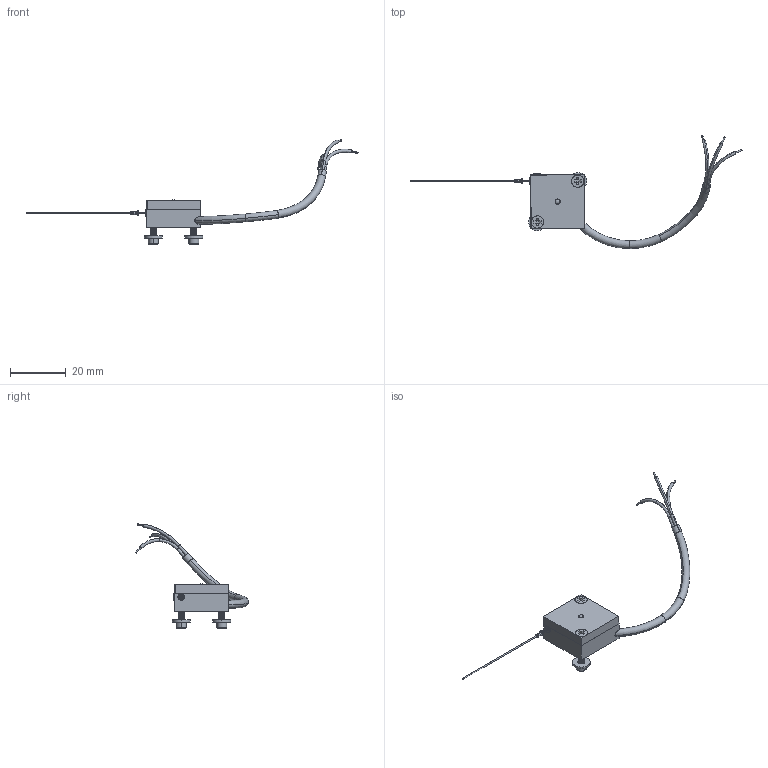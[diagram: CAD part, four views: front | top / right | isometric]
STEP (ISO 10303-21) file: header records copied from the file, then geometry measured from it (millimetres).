
FILE_DESCRIPTION (( 'STEP AP214' ), '1' );
FILE_NAME ('150 SERIES.STEP', '2016-12-12T16:54:33', ( 'setup' ), ( '' ), 'SwSTEP 2.0', 'SolidWorks 2015', '' );
FILE_SCHEMA (( 'AUTOMOTIVE_DESIGN' ));
Length unit declared in the file: inch
Products named in the file (2): 150 SERIES
Bounding box: 118.66 x 40.46 x 37.29 mm (x, y, z)
Surface area: 3168.9 mm2 (no closed solid volume)
Topology: 0 solids, 23 shells, 218 faces, 622 edges, 432 vertices
Faces by surface type: cylinder 107, plane 82, torus 14, bspline 9, cone 6
Entity records: 13556 total; most frequent: CARTESIAN_POINT 5355, ORIENTED_EDGE 1097, DIRECTION 1047, EDGE_CURVE 622, VERTEX_POINT 432, AXIS2_PLACEMENT_3D 378, LINE 291, VECTOR 291
